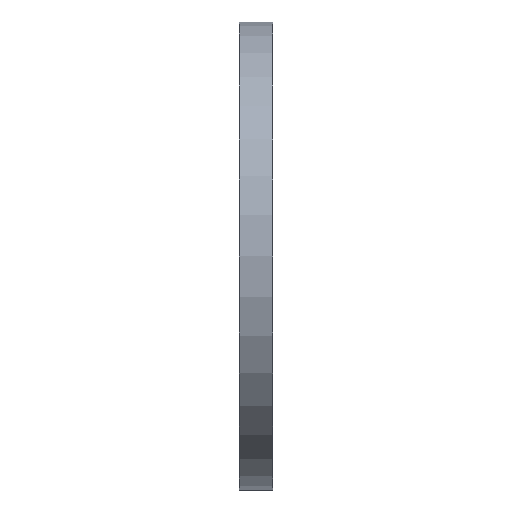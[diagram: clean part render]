
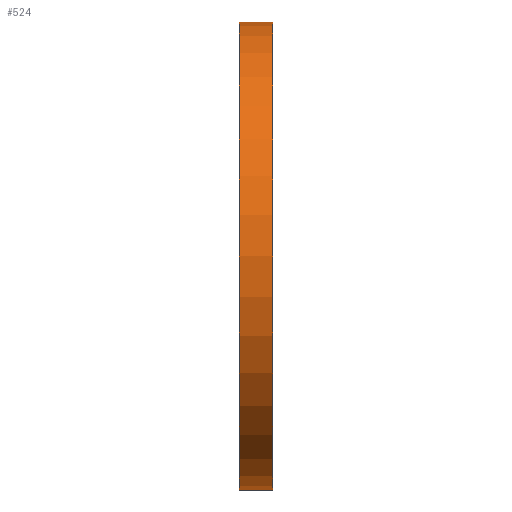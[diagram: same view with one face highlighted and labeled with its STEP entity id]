
A CAD part, left-side view. The second image highlights one B-rep face of the part: STEP entity #524.
In plain terms, the highlighted cylindrical face has radius 112.5 mm (diameter 225 mm), a partial arc.
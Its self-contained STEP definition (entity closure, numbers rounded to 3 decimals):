
#1 = CARTESIAN_POINT ( 'NONE',  ( 0., 0., 0. ) ) ;
#72 = EDGE_CURVE ( 'NONE', #648, #792, #391, .T. ) ;
#112 = EDGE_CURVE ( 'NONE', #304, #517, #854, .T. ) ;
#157 = ORIENTED_EDGE ( 'NONE', *, *, #112, .F. ) ;
#162 = CARTESIAN_POINT ( 'NONE',  ( 0., 16., -112.5 ) ) ;
#168 = VECTOR ( 'NONE', #429, 1000. ) ;
#171 = ORIENTED_EDGE ( 'NONE', *, *, #526, .T. ) ;
#174 = CARTESIAN_POINT ( 'NONE',  ( 0., 16., 0. ) ) ;
#215 = DIRECTION ( 'NONE',  ( 0., 0., -1. ) ) ;
#216 = CARTESIAN_POINT ( 'NONE',  ( 0., 0., -112.5 ) ) ;
#231 = DIRECTION ( 'NONE',  ( 0., 0., -1. ) ) ;
#297 = CARTESIAN_POINT ( 'NONE',  ( 0., 0., 0. ) ) ;
#304 = VERTEX_POINT ( 'NONE', #824 ) ;
#315 = ORIENTED_EDGE ( 'NONE', *, *, #72, .T. ) ;
#361 = EDGE_CURVE ( 'NONE', #517, #792, #633, .T. ) ;
#362 = DIRECTION ( 'NONE',  ( 0., -1., 0. ) ) ;
#364 = DIRECTION ( 'NONE',  ( 0., -1., 0. ) ) ;
#375 = AXIS2_PLACEMENT_3D ( 'NONE', #297, #364, #231 ) ;
#391 = LINE ( 'NONE', #216, #168 ) ;
#407 = AXIS2_PLACEMENT_3D ( 'NONE', #1, #884, #215 ) ;
#429 = DIRECTION ( 'NONE',  ( 0., -1., 0. ) ) ;
#456 = DIRECTION ( 'NONE',  ( 0., 0., -1. ) ) ;
#517 = VERTEX_POINT ( 'NONE', #759 ) ;
#523 = CYLINDRICAL_SURFACE ( 'NONE', #375, 112.5 ) ;
#524 = ADVANCED_FACE ( 'NONE', ( #869 ), #523, .T. ) ;
#526 = EDGE_CURVE ( 'NONE', #304, #648, #787, .T. ) ;
#624 = ORIENTED_EDGE ( 'NONE', *, *, #361, .F. ) ;
#633 = CIRCLE ( 'NONE', #407, 112.5 ) ;
#648 = VERTEX_POINT ( 'NONE', #162 ) ;
#712 = EDGE_LOOP ( 'NONE', ( #157, #171, #315, #624 ) ) ;
#744 = CARTESIAN_POINT ( 'NONE',  ( 0., 0., -112.5 ) ) ;
#759 = CARTESIAN_POINT ( 'NONE',  ( 0., 0., 112.5 ) ) ;
#773 = DIRECTION ( 'NONE',  ( 0., -1., 0. ) ) ;
#787 = CIRCLE ( 'NONE', #886, 112.5 ) ;
#792 = VERTEX_POINT ( 'NONE', #744 ) ;
#808 = VECTOR ( 'NONE', #362, 1000. ) ;
#822 = CARTESIAN_POINT ( 'NONE',  ( 0., 0., 112.5 ) ) ;
#824 = CARTESIAN_POINT ( 'NONE',  ( 0., 16., 112.5 ) ) ;
#854 = LINE ( 'NONE', #822, #808 ) ;
#869 = FACE_OUTER_BOUND ( 'NONE', #712, .T. ) ;
#884 = DIRECTION ( 'NONE',  ( 0., -1., 0. ) ) ;
#886 = AXIS2_PLACEMENT_3D ( 'NONE', #174, #773, #456 ) ;
